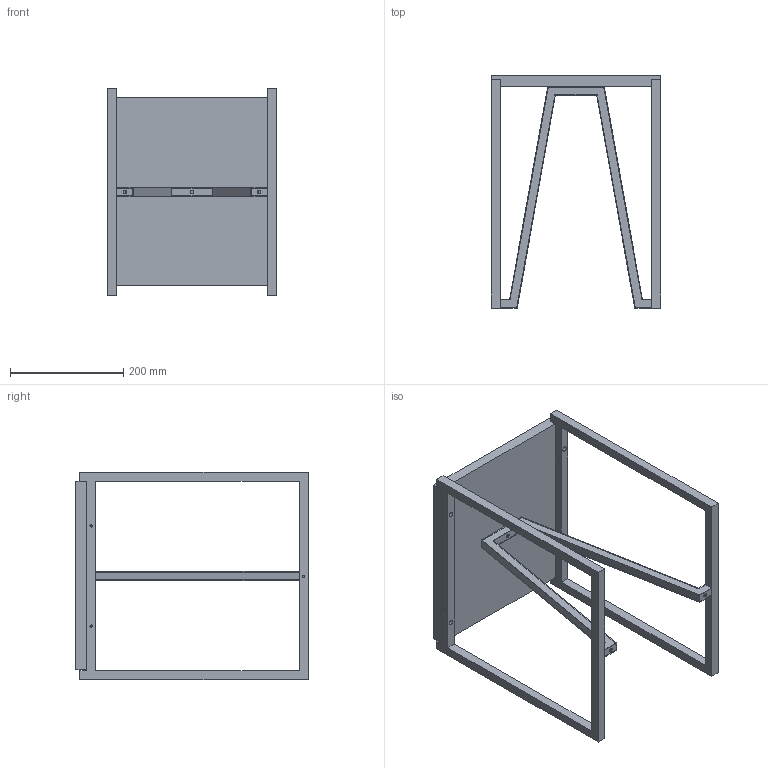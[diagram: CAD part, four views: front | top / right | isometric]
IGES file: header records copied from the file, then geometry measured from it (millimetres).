
Start section: SolidWorks IGES file using analytic representation for surfaces
Global section: file name: C:\Users\hcaixa\Documents\Gabinete Tecnico\72_produtos cliente\Timsteel\Estantes\Estantes  Q16\Q16 versão catalogo\Assemblys\IGS\Novas Peças\Stool 450.IGS; native system: SolidWorks 2014; preprocessor: SolidWorks 2014; author: hcaixa; date: 190704.140642; units: millimetre
Bounding box: 300 x 411 x 367 mm (x, y, z)
Surface area: 523231.4 mm2 (no closed solid volume)
Topology: 0 solids, 0 shells, 103 faces, 1408 edges, 1408 vertices
Faces by surface type: bspline 65, revolution 38
